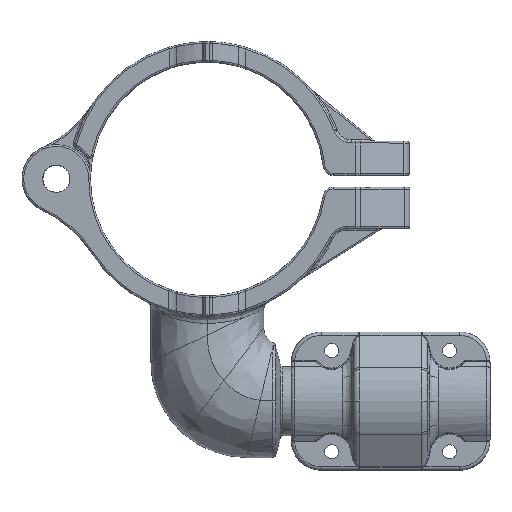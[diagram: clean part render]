
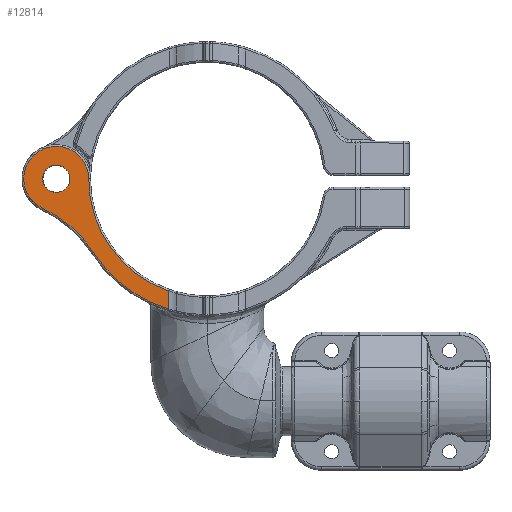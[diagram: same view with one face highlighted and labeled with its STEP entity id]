
A CAD part, top view. The second image highlights one B-rep face of the part: STEP entity #12814.
In plain terms, the highlighted planar face has unit normal (0, 0, 1).
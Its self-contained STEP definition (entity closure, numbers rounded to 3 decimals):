
#3408=DIRECTION('',(0.,1.,0.));
#3409=VECTOR('',#3408,5.325);
#3410=CARTESIAN_POINT('',(-11.417,-38.638,
17.76));
#3411=LINE('',#3410,#3409);
#3440=CARTESIAN_POINT('',(-44.856,0.,17.76));
#3441=DIRECTION('',(0.,0.,-1.));
#3442=DIRECTION('',(0.421,0.907,0.));
#3443=AXIS2_PLACEMENT_3D('',#3440,#3441,#3442);
#3448=CARTESIAN_POINT('',(0.,0.,17.76));
#3449=DIRECTION('',(0.,0.,1.));
#3450=DIRECTION('',(-1.,0.,0.));
#3451=AXIS2_PLACEMENT_3D('',#3448,#3449,#3450);
#3456=CARTESIAN_POINT('',(0.,0.,17.76));
#3457=DIRECTION('',(0.,0.,-1.));
#3458=DIRECTION('',(-0.283,-0.959,0.));
#3459=AXIS2_PLACEMENT_3D('',#3456,#3457,#3458);
#3464=CARTESIAN_POINT('',(-64.102,-41.415,17.76));
#3465=DIRECTION('',(0.,0.,1.));
#3466=DIRECTION('',(0.84,0.543,0.));
#3467=AXIS2_PLACEMENT_3D('',#3464,#3465,#3466);
#3472=CARTESIAN_POINT('',(-44.856,0.,17.76));
#3473=DIRECTION('',(0.,0.,-1.));
#3474=DIRECTION('',(-0.421,-0.907,0.));
#3475=AXIS2_PLACEMENT_3D('',#3472,#3473,#3474);
#3480=CARTESIAN_POINT('',(-44.856,0.,17.76));
#3481=DIRECTION('',(0.,0.,1.));
#3482=DIRECTION('',(1.,0.,0.));
#3483=AXIS2_PLACEMENT_3D('',#3480,#3481,#3482);
#3488=CARTESIAN_POINT('',(-44.856,0.,17.76));
#3489=DIRECTION('',(0.,0.,1.));
#3490=DIRECTION('',(-1.,0.,0.));
#3491=AXIS2_PLACEMENT_3D('',#3488,#3489,#3490);
#8341=CARTESIAN_POINT('',(-11.417,-38.638,17.76));
#8342=VERTEX_POINT('',#8341);
#8343=CARTESIAN_POINT('',(-33.841,-21.864,17.76));
#8344=VERTEX_POINT('',#8343);
#8347=CARTESIAN_POINT('',(-48.919,-8.743,17.76));
#8348=VERTEX_POINT('',#8347);
#8683=CARTESIAN_POINT('',(-11.417,-33.313,
17.76));
#8684=VERTEX_POINT('',#8683);
#8685=CARTESIAN_POINT('',(-40.793,8.743,17.76));
#8686=CARTESIAN_POINT('',(-35.215,0.,17.76));
#8687=VERTEX_POINT('',#8685);
#8688=VERTEX_POINT('',#8686);
#8689=CARTESIAN_POINT('',(-40.797,0.,17.76));
#8690=CARTESIAN_POINT('',(-48.916,0.,17.76));
#8691=VERTEX_POINT('',#8689);
#8692=VERTEX_POINT('',#8690);
#12792=CARTESIAN_POINT('',(0.,0.,17.76));
#12793=DIRECTION('',(0.,0.,1.));
#12794=DIRECTION('',(-1.,0.,0.));
#12795=AXIS2_PLACEMENT_3D('',#12792,#12793,#12794);
#12796=PLANE('',#12795);
#12798=ORIENTED_EDGE('',*,*,#12797,.T.);
#12800=ORIENTED_EDGE('',*,*,#12799,.T.);
#12801=ORIENTED_EDGE('',*,*,#12783,.F.);
#12802=ORIENTED_EDGE('',*,*,#11075,.T.);
#12803=ORIENTED_EDGE('',*,*,#11090,.T.);
#12805=ORIENTED_EDGE('',*,*,#12804,.T.);
#12806=EDGE_LOOP('',(#12798,#12800,#12801,#12802,#12803,#12805));
#12807=FACE_OUTER_BOUND('',#12806,.F.);
#12809=ORIENTED_EDGE('',*,*,#12808,.T.);
#12811=ORIENTED_EDGE('',*,*,#12810,.T.);
#12812=EDGE_LOOP('',(#12809,#12811));
#12813=FACE_BOUND('',#12812,.F.);
#3444=CIRCLE('',#3443,9.641);
#3452=CIRCLE('',#3451,35.215);
#3460=CIRCLE('',#3459,40.29);
#3468=CIRCLE('',#3467,36.027);
#3476=CIRCLE('',#3475,9.641);
#3484=CIRCLE('',#3483,4.059);
#3492=CIRCLE('',#3491,4.059);
#11075=EDGE_CURVE('',#8342,#8344,#3460,.T.);
#11090=EDGE_CURVE('',#8344,#8348,#3468,.T.);
#12783=EDGE_CURVE('',#8342,#8684,#3411,.T.);
#12797=EDGE_CURVE('',#8687,#8688,#3444,.T.);
#12799=EDGE_CURVE('',#8688,#8684,#3452,.T.);
#12804=EDGE_CURVE('',#8348,#8687,#3476,.T.);
#12808=EDGE_CURVE('',#8691,#8692,#3484,.T.);
#12810=EDGE_CURVE('',#8692,#8691,#3492,.T.);
#12814=ADVANCED_FACE('',(#12807,#12813),#12796,.T.);
